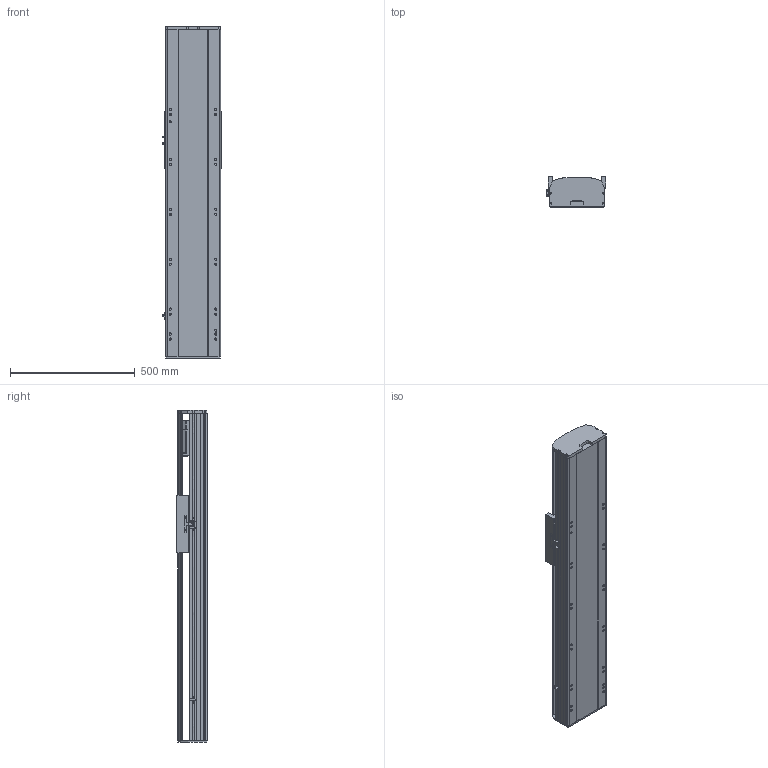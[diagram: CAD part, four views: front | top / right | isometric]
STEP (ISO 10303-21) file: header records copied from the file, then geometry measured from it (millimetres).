
FILE_DESCRIPTION (( 'STEP AP214' ), '1' );
FILE_NAME ('RTH22-XX-700-B-M75B-C4.STEP', '2025-10-24T10:09:35', ( 'Microsoft' ), ( 'Microsoft' ), 'SwSTEP 2.0', 'SolidWorks 2018', '' );
FILE_SCHEMA (( 'AUTOMOTIVE_DESIGN' ));
Length unit declared in the file: millimetre
Products named in the file (9): N_RTH22-GY-001耜裔^RTH22-XX-XX-B-M75B-C4; RTH22-XX-700-B-M75B-C4; N_750W萇儂^RTH22-XX-XX-B-M75B-C4; N_RTH22-GY-013外置感应片^RTH22-XX-XX-B-M75B-C4; N_OMRON EE-SX672 传感器^RTH22-XX-XX-B-M75B-C4; N_RTH22-B008萇儂啣^RTH22-XX-XX-B-M75B-C4; N_RTH22-B-011B菁釱^RTH22-XX-XX-B-M75B-C4; N_RTH22-E-004-SFS25賑釱^RTH22-XX-XX-B-M75B-C4; N_RTH22-B-007B奻裔^RTH22-XX-XX-B-M75B-C4
Assembly tree (10 placements, depth 2):
  RTH22-XX-700-B-M75B-C4
    N_RTH22-B-011B菁釱^RTH22-XX-XX-B-M75B-C4
    N_RTH22-GY-001耜裔^RTH22-XX-XX-B-M75B-C4
    N_750W萇儂^RTH22-XX-XX-B-M75B-C4
    N_RTH22-B008萇儂啣^RTH22-XX-XX-B-M75B-C4
    N_RTH22-B-007B奻裔^RTH22-XX-XX-B-M75B-C4
    N_OMRON EE-SX672 传感器^RTH22-XX-XX-B-M75B-C4  x3
    N_RTH22-GY-013外置感应片^RTH22-XX-XX-B-M75B-C4
    N_RTH22-E-004-SFS25賑釱^RTH22-XX-XX-B-M75B-C4
Bounding box: 238.5 x 122 x 1330 mm (x, y, z)
Volume: 18447354.4 mm3; surface area: 1912408.5 mm2
Topology: 10 solids, 10 shells, 1515 faces, 4150 edges, 2683 vertices
Faces by surface type: plane 752, cylinder 430, bspline 279, cone 54
Entity records: 37433 total; most frequent: CARTESIAN_POINT 11697, ORIENTED_EDGE 5284, DIRECTION 4940, EDGE_CURVE 2642, VERTEX_POINT 1719, AXIS2_PLACEMENT_3D 1654, LINE 1632, VECTOR 1632
